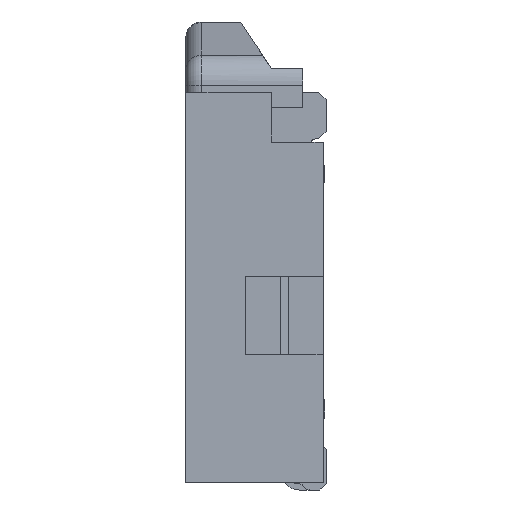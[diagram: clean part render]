
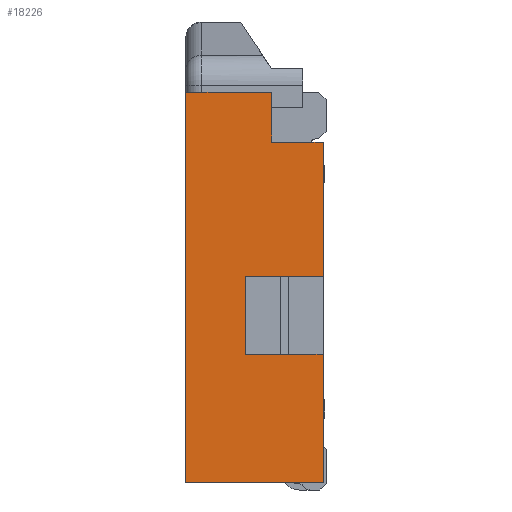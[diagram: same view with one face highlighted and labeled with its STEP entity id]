
A CAD part, left-side view. The second image highlights one B-rep face of the part: STEP entity #18226.
In plain terms, the highlighted planar face has unit normal (-1, 0, 0).
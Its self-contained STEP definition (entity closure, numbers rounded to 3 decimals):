
#13387 = ORIENTED_EDGE ( 'NONE', *, *, #17821, .F. ) ;
#13388 = ORIENTED_EDGE ( 'NONE', *, *, #13522, .F. ) ;
#13514 = EDGE_CURVE ( 'NONE', #18260, #17044, #37655, .T. ) ;
#13520 = ORIENTED_EDGE ( 'NONE', *, *, #15393, .F. ) ;
#13522 = EDGE_CURVE ( 'NONE', #17817, #16784, #37659, .T. ) ;
#13582 = ORIENTED_EDGE ( 'NONE', *, *, #15585, .F. ) ;
#13633 = ORIENTED_EDGE ( 'NONE', *, *, #17009, .F. ) ;
#13671 = ORIENTED_EDGE ( 'NONE', *, *, #18217, .F. ) ;
#15149 = VERTEX_POINT ( 'NONE', #39538 ) ;
#15155 = VERTEX_POINT ( 'NONE', #39539 ) ;
#15163 = VERTEX_POINT ( 'NONE', #39520 ) ;
#15356 = EDGE_CURVE ( 'NONE', #15549, #15163, #39796, .T. ) ;
#15393 = EDGE_CURVE ( 'NONE', #15149, #15155, #39739, .T. ) ;
#15549 = VERTEX_POINT ( 'NONE', #40177 ) ;
#15585 = EDGE_CURVE ( 'NONE', #15549, #15149, #40359, .T. ) ;
#16784 = VERTEX_POINT ( 'NONE', #41826 ) ;
#17009 = EDGE_CURVE ( 'NONE', #16784, #17044, #42499, .T. ) ;
#17044 = VERTEX_POINT ( 'NONE', #42268 ) ;
#17727 = VERTEX_POINT ( 'NONE', #45980 ) ;
#17817 = VERTEX_POINT ( 'NONE', #46312 ) ;
#17821 = EDGE_CURVE ( 'NONE', #17727, #17817, #46298, .T. ) ;
#18207 = ORIENTED_EDGE ( 'NONE', *, *, #13514, .T. ) ;
#18216 = ORIENTED_EDGE ( 'NONE', *, *, #18230, .F. ) ;
#18217 = EDGE_CURVE ( 'NONE', #15155, #17727, #46960, .T. ) ;
#18224 = EDGE_CURVE ( 'NONE', #18225, #18260, #46924, .T. ) ;
#18225 = VERTEX_POINT ( 'NONE', #46966 ) ;
#18226 = ADVANCED_FACE ( 'NONE', ( #46933 ), #46946, .F. ) ;
#18230 = EDGE_CURVE ( 'NONE', #18225, #15163, #46918, .T. ) ;
#18231 = ORIENTED_EDGE ( 'NONE', *, *, #15356, .T. ) ;
#18232 = ORIENTED_EDGE ( 'NONE', *, *, #18224, .T. ) ;
#18235 = EDGE_LOOP ( 'NONE', ( #18231, #18216, #18232, #18207, #13633, #13388, #13387, #13671, #13520, #13582 ) ) ;
#18260 = VERTEX_POINT ( 'NONE', #46987 ) ;
#37649 = DIRECTION ( 'NONE',  ( 0., 0., 1. ) ) ;
#37650 = VECTOR ( 'NONE', #37649, 1000. ) ;
#37651 = CARTESIAN_POINT ( 'NONE',  ( -3.1, 0.35, 0. ) ) ;
#37652 = DIRECTION ( 'NONE',  ( 0., 0., 1. ) ) ;
#37653 = VECTOR ( 'NONE', #37652, 1000. ) ;
#37654 = CARTESIAN_POINT ( 'NONE',  ( -3.1, 0.9, 0. ) ) ;
#37655 = LINE ( 'NONE', #37651, #37650 ) ;
#37659 = LINE ( 'NONE', #37654, #37653 ) ;
#39520 = CARTESIAN_POINT ( 'NONE',  ( -3.1, 0.02, -1.18 ) ) ;
#39538 = CARTESIAN_POINT ( 'NONE',  ( -3.1, 0.52, -1.68 ) ) ;
#39539 = CARTESIAN_POINT ( 'NONE',  ( -3.1, 0.02, -1.68 ) ) ;
#39738 = CARTESIAN_POINT ( 'NONE',  ( -3.1, 0.52, -1.68 ) ) ;
#39739 = LINE ( 'NONE', #39738, #39746 ) ;
#39745 = DIRECTION ( 'NONE',  ( 0., -1., 0. ) ) ;
#39746 = VECTOR ( 'NONE', #39745, 1000. ) ;
#39795 = VECTOR ( 'NONE', #39870, 1000. ) ;
#39796 = LINE ( 'NONE', #39869, #39795 ) ;
#39869 = CARTESIAN_POINT ( 'NONE',  ( -3.1, 0.52, -1.18 ) ) ;
#39870 = DIRECTION ( 'NONE',  ( 0., -1., 0. ) ) ;
#40177 = CARTESIAN_POINT ( 'NONE',  ( -3.1, 0.52, -1.18 ) ) ;
#40352 = DIRECTION ( 'NONE',  ( 0., 0., -1. ) ) ;
#40353 = VECTOR ( 'NONE', #40352, 1000. ) ;
#40358 = CARTESIAN_POINT ( 'NONE',  ( -3.1, 0.52, -1.18 ) ) ;
#40359 = LINE ( 'NONE', #40358, #40353 ) ;
#41826 = CARTESIAN_POINT ( 'NONE',  ( -3.1, 0.9, 0. ) ) ;
#42246 = CARTESIAN_POINT ( 'NONE',  ( -3.1, 0.9, 0. ) ) ;
#42268 = CARTESIAN_POINT ( 'NONE',  ( -3.1, 0.35, 0. ) ) ;
#42495 = DIRECTION ( 'NONE',  ( 0., -1., 0. ) ) ;
#42497 = VECTOR ( 'NONE', #42495, 1000. ) ;
#42499 = LINE ( 'NONE', #42246, #42497 ) ;
#45980 = CARTESIAN_POINT ( 'NONE',  ( -3.1, 0.02, -2.5 ) ) ;
#46297 = CARTESIAN_POINT ( 'NONE',  ( -3.1, 0.02, -2.5 ) ) ;
#46298 = LINE ( 'NONE', #46297, #46340 ) ;
#46312 = CARTESIAN_POINT ( 'NONE',  ( -3.1, 0.9, -2.5 ) ) ;
#46339 = DIRECTION ( 'NONE',  ( 0., 1., 0. ) ) ;
#46340 = VECTOR ( 'NONE', #46339, 1000. ) ;
#46899 = DIRECTION ( 'NONE',  ( 1., 0., 0. ) ) ;
#46906 = CARTESIAN_POINT ( 'NONE',  ( -3.1, 0.9, -2.4 ) ) ;
#46914 = CARTESIAN_POINT ( 'NONE',  ( -3.1, 0.02, -2.5 ) ) ;
#46915 = DIRECTION ( 'NONE',  ( 0., 0., -1. ) ) ;
#46916 = VECTOR ( 'NONE', #46965, 1000. ) ;
#46918 = LINE ( 'NONE', #46914, #46947 ) ;
#46924 = LINE ( 'NONE', #46936, #46916 ) ;
#46930 = DIRECTION ( 'NONE',  ( 0., 0., 1. ) ) ;
#46932 = DIRECTION ( 'NONE',  ( 0., 0., -1. ) ) ;
#46933 = FACE_OUTER_BOUND ( 'NONE', #18235, .T. ) ;
#46934 = CARTESIAN_POINT ( 'NONE',  ( -3.1, 0.02, -2.5 ) ) ;
#46936 = CARTESIAN_POINT ( 'NONE',  ( -3.1, 0.02, -0.32 ) ) ;
#46946 = PLANE ( 'NONE',  #46953 ) ;
#46947 = VECTOR ( 'NONE', #46915, 1000. ) ;
#46948 = VECTOR ( 'NONE', #46932, 1000. ) ;
#46953 = AXIS2_PLACEMENT_3D ( 'NONE', #46906, #46899, #46930 ) ;
#46960 = LINE ( 'NONE', #46934, #46948 ) ;
#46965 = DIRECTION ( 'NONE',  ( 0., 1., 0. ) ) ;
#46966 = CARTESIAN_POINT ( 'NONE',  ( -3.1, 0.02, -0.32 ) ) ;
#46987 = CARTESIAN_POINT ( 'NONE',  ( -3.1, 0.35, -0.32 ) ) ;
